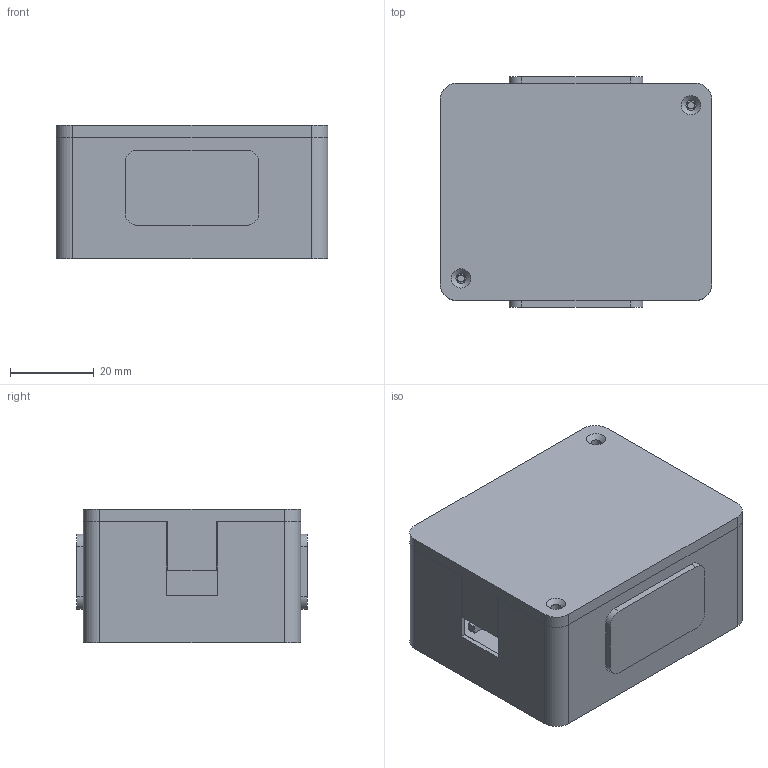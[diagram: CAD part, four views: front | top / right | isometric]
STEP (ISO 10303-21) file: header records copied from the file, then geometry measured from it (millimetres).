
FILE_DESCRIPTION(('Open CASCADE Model'),'2;1');
FILE_NAME('Open CASCADE Shape Model','2026-11-08T17:26:57',('Author'),( 'Open CASCADE'),'Open CASCADE STEP processor 7.8','Open CASCADE 7.8' ,'Unknown');
FILE_SCHEMA(('AUTOMOTIVE_DESIGN { 1 0 10303 214 1 1 1 1 }'));
Length unit declared in the file: millimetre
Products named in the file (8): Tally_V2_65x52x32; socle; couvercle; support_ESP; support_LED_avant; support_LED_arriere; diffuseur_avant; diffuseur_arriere
Assembly tree (7 placements, depth 2):
  Tally_V2_65x52x32
    socle
    couvercle
    support_ESP
    support_LED_avant
    support_LED_arriere
    diffuseur_avant
    diffuseur_arriere
Bounding box: 65 x 55.2 x 32 mm (x, y, z)
Volume: 36015.9 mm3; surface area: 37403.8 mm2
Topology: 7 solids, 7 shells, 402 faces, 1102 edges, 734 vertices
Faces by surface type: plane 318, cylinder 82, cone 2
Full cylindrical faces by diameter (mm): 1.7 x4, 2.4 x4, 6 x2
Entity records: 26923 total; most frequent: CARTESIAN_POINT 5027, DIRECTION 3899, LINE 2607, VECTOR 2607, ORIENTED_EDGE 2204, PCURVE 2204, DEFINITIONAL_REPRESENTATION 2204, EDGE_CURVE 1102
